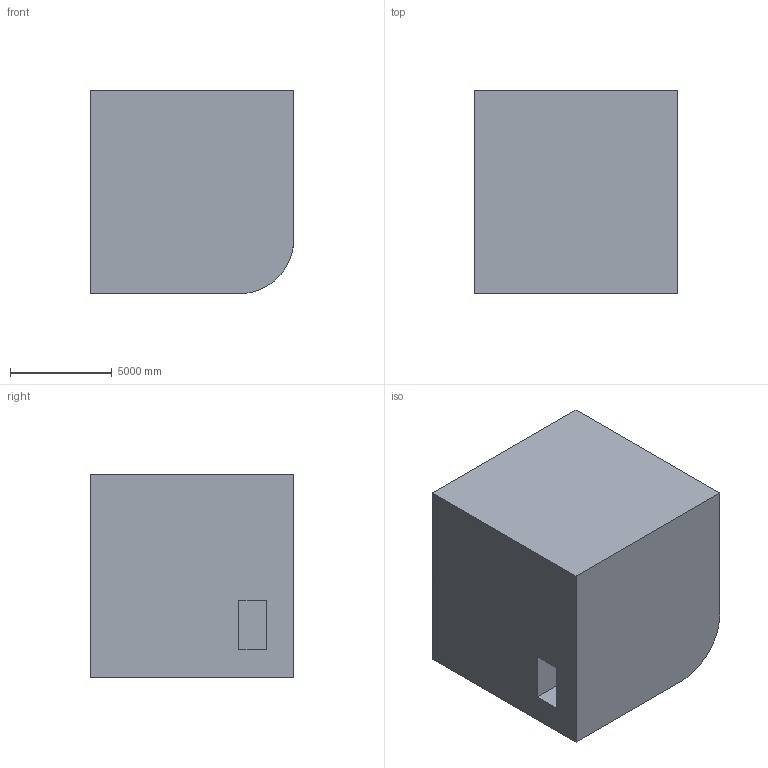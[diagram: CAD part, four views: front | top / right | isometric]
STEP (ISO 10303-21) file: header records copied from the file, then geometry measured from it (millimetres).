
FILE_DESCRIPTION (( 'STEP AP203' ), '1' );
FILE_NAME ('451.STEP', '2022-07-29T11:20:06', ( 'user' ), ( '' ), 'SwSTEP 2.0', 'SolidWorks 2021', '' );
FILE_SCHEMA (( 'CONFIG_CONTROL_DESIGN' ));
Length unit declared in the file: centimetre
Products named in the file (1): 451
Bounding box: 10000 x 10000 x 10000 mm (x, y, z)
Volume: 921798430652.5 mm3; surface area: 677185710.3 mm2
Topology: 1 solids, 1 shells, 27 faces, 72 edges, 48 vertices
Faces by surface type: plane 22, cylinder 5
Entity records: 1008 total; most frequent: CARTESIAN_POINT 246, ORIENTED_EDGE 144, DIRECTION 137, EDGE_CURVE 72, LINE 59, VECTOR 59, VERTEX_POINT 48, AXIS2_PLACEMENT_3D 39
